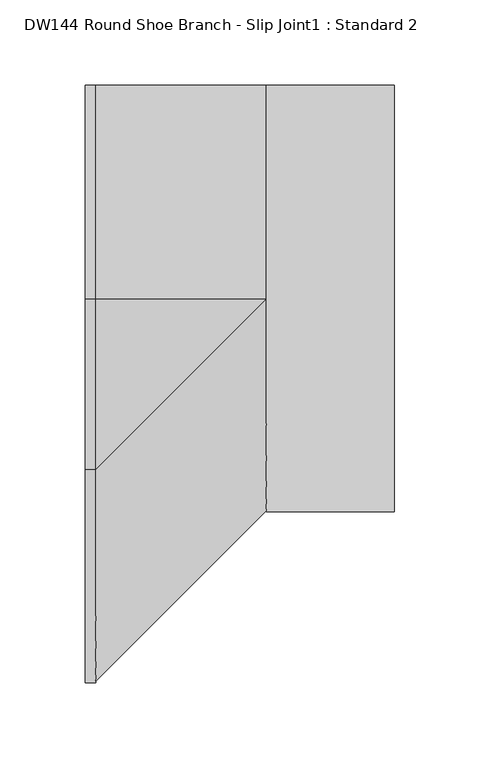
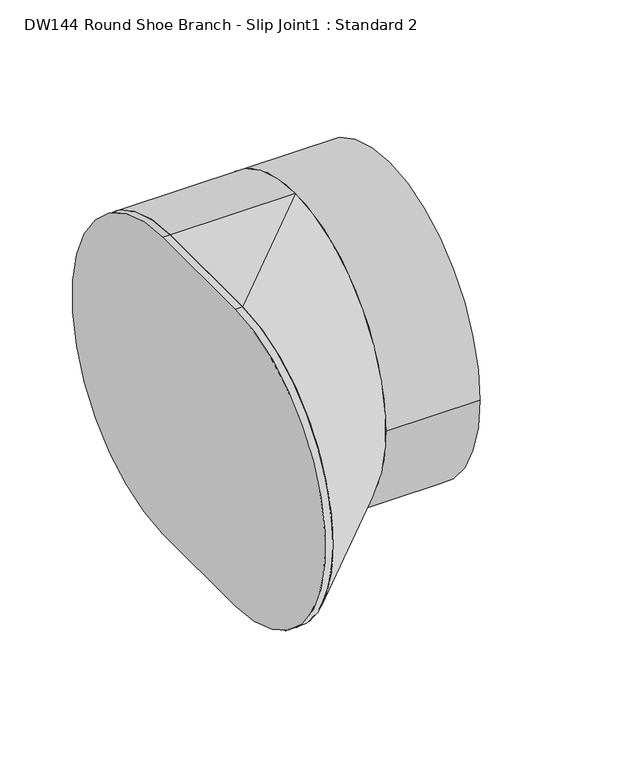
"""IFC4 building model written with IfcOpenShell, lengths in millimetres: duct fitting geometry, DW144 Round Shoe Branch - Slip Joint1 : Standard 2."""

from ifc_helpers import new_model, si_unit, point, frame, frame_2d, origin, origin_2d, place, context, project, spatial, polyline, circle_curve, trimmed, segment, composite_curve, outline, extrude, source, transform, mapped, element, save
from ifc_brep_helpers import plane_surface, cylinder_surface, extruded_surface, advanced_brep


def dw144_round_shoe_branch_slip_joint1_standard_2_4a92c8a1(model_context):
    return source(origin(), model_context, "Body", "SolidModel", [
        extrude(outline(composite_curve([segment(trimmed(circle_curve(origin_2d(), 125.0), [point((-125.0, 0.0))], [point((125.0, 0.0))], False, "CARTESIAN"), True, "CONTINUOUS"), segment(trimmed(circle_curve(origin_2d(), 125.0), [point((125.0, 0.0))], [point((-125.0, 0.0))], False, "CARTESIAN"), True, "CONTINUOUS")], self_intersect=False)), frame((100.0, 0.0, 0.0), z_axis=(1.0, 0.0, 0.0), x_axis=(0.0, 1.0, 0.0)), (0.0, 0.0, 1.0), 75.0),
        advanced_brep(
        [(100.0, 0.0, -125.0), (100.0, 0.0, 125.0), (0.0, 0.0, -125.0), (0.0, -100.0, -125.0), (0.0, -100.0, 125.0), (0.0, 0.0, 125.0)],
        [
            (0, 1, circle_curve(frame((100.0, 0.0, 0.0), z_axis=(1.0, 0.0, 0.0), x_axis=(0.0, 1.0, 0.0)), 125.0)),
            (1, 0, circle_curve(frame((100.0, 0.0, 0.0), z_axis=(1.0, 0.0, 0.0), x_axis=(0.0, 1.0, 0.0)), 125.0)),
            (2, 3),
            (3, 4, circle_curve(frame((0.0, -100.0, 0.0), z_axis=(-1.0, 0.0, 0.0), x_axis=(0.0, 1.0, 0.0)), 125.0)),
            (4, 5),
            (5, 2, circle_curve(frame((0.0, 0.0, 0.0), z_axis=(-1.0, 0.0, 0.0), x_axis=(0.0, 1.0, 0.0)), 125.0)),
            (5, 1),
            (0, 2),
            (4, 1),
            (3, 0),
        ],
        [
            plane_surface(frame((100.0, 0.0, 0.0), z_axis=(1.0, 0.0, 0.0), x_axis=(0.0, 1.0, 0.0))),
            plane_surface(frame((0.0, -50.0, 0.0), z_axis=(-1.0, 0.0, 0.0), x_axis=(0.0, 1.0, 0.0))),
            cylinder_surface(frame((0.0, 0.0, 0.0), z_axis=(1.0, 0.0, 0.0), x_axis=(0.0, 1.0, 0.0)), 125.0),
            plane_surface(frame((0.0, -50.0, 125.0), z_axis=(0.0, 0.0, 1.0), x_axis=(0.0, -1.0, 0.0))),
            extruded_surface(trimmed(circle_curve(frame((0.0, -100.0, 0.0), z_axis=(1.0, 0.0, 0.0), x_axis=(0.0, 1.0, 0.0)), 125.0), [point((0.0, -100.0, 125.0))], [point((0.0, -100.0, -125.0))], True, "CARTESIAN"), (100.0, 100.0, 0.0), 141.4213562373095),
            plane_surface(frame((0.0, -50.0, -125.0), z_axis=(0.0, 0.0, -1.0), x_axis=(0.0, 1.0, 0.0))),
        ],
        [
            (0, [[1, 2]]),
            (1, [[3, 4, 5, 6]]),
            (2, [[-6, 7, -1, 8]]),
            (3, [[-5, 9, -7]]),
            (4, [[-4, 10, -2, -9]]),
            (5, [[-3, -8, -10]]),
        ],
    ),
        extrude(outline(composite_curve([segment(polyline([(0.0, -125.0), (-100.0, -125.0)]), True, "CONTINUOUS"), segment(trimmed(circle_curve(frame_2d((-100.0, 0.0)), 125.0), [point((-100.0, -125.0))], [point((-100.0, 125.0))], False, "CARTESIAN"), True, "CONTINUOUS"), segment(polyline([(-100.0, 125.0), (0.0, 125.0)]), True, "CONTINUOUS"), segment(trimmed(circle_curve(origin_2d(), 125.0), [point((0.0, 125.0))], [point((0.0, -125.0))], False, "CARTESIAN"), True, "CONTINUOUS")], self_intersect=False)), frame((-6.096, 0.0, 0.0), z_axis=(1.0, 0.0, 0.0), x_axis=(0.0, 1.0, 0.0)), (0.0, 0.0, 1.0), 6.096),
    ])


if __name__ == "__main__":
    model = new_model("IFC4")
    model_context = context("Model", 3, world=origin())
    ifc_project = project(units=[si_unit("LENGTHUNIT", "METRE", prefix="MILLI")], contexts=[model_context])
    site = spatial("IfcSite", under=ifc_project)
    building = spatial("IfcBuilding", under=site)
    placement = place(None, origin())
    dw144_round_shoe_branch_slip_joint1_standard_2_shape = dw144_round_shoe_branch_slip_joint1_standard_2_4a92c8a1(model_context)
    element("IfcDuctFitting", 1, ObjectType="DW144 Round Shoe Branch - Slip Joint1 : Standard 2", at=placement, inside=building, context=model_context, shape_type="MappedRepresentation", body=[
        mapped(dw144_round_shoe_branch_slip_joint1_standard_2_shape, transform((0.0, 0.0, 0.0), x_axis=(1.0, 0.0, 0.0), y_axis=(0.0, 1.0, 0.0), z_axis=(0.0, 0.0, 1.0))),
    ])
    save(model, "model.ifc")
